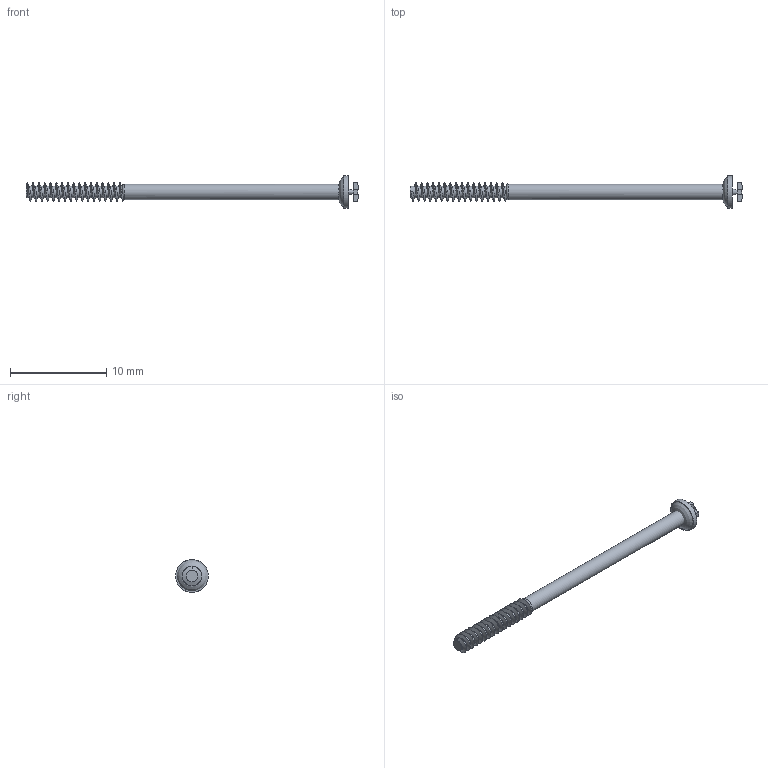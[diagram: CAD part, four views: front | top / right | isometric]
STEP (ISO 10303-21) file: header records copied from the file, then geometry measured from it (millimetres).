
FILE_DESCRIPTION(('Open CASCADE Model'),'2;1');
FILE_NAME('Open CASCADE Shape Model','2026-11-24T19:57:39',('Author'),( 'Open CASCADE'),'Open CASCADE STEP processor 7.8','Open CASCADE 7.8' ,'Unknown');
FILE_SCHEMA(('AUTOMOTIVE_DESIGN { 1 0 10303 214 1 1 1 1 }'));
Length unit declared in the file: millimetre
Products named in the file (1): Open CASCADE STEP translator 7.8 115
Bounding box: 34.5 x 3.4 x 3.4 mm (x, y, z)
Volume: 59 mm3; surface area: 244.7 mm2
Topology: 1 solids, 1 shells, 36 faces, 156 edges, 123 vertices
Faces by surface type: plane 21, bspline 10, cylinder 3, torus 1, revolution 1
Full cylindrical faces by diameter (mm): 1.6 x1, 3.4 x1
Entity records: 10738 total; most frequent: CARTESIAN_POINT 8393, B_SPLINE_CURVE_WITH_KNOTS 336, ORIENTED_EDGE 312, PCURVE 312, DEFINITIONAL_REPRESENTATION 312, DIRECTION 193, EDGE_CURVE 156, SURFACE_CURVE 153
